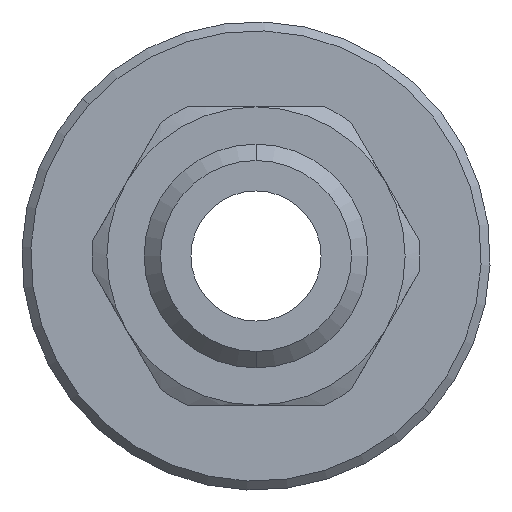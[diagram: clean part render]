
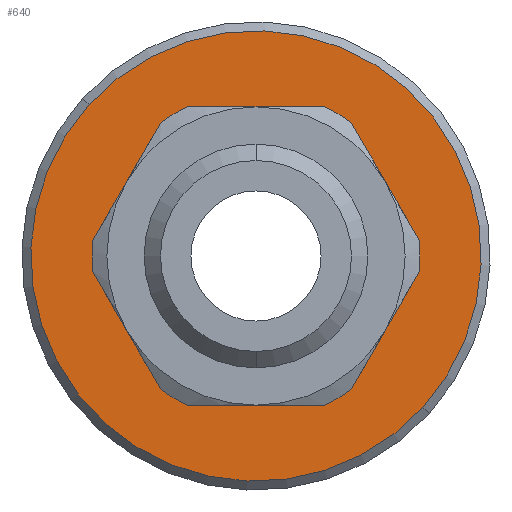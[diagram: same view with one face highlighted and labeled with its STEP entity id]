
A CAD part, left-side view. The second image highlights one B-rep face of the part: STEP entity #640.
In plain terms, the highlighted planar face has unit normal (-1, 0, 0).
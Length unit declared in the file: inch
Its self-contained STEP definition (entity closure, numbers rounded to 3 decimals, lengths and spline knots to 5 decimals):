
#41 = DIRECTION ( 'NONE',  ( 0., 0., -1. ) ) ;
#42 = DIRECTION ( 'NONE',  ( 1., 0., 0. ) ) ;
#43 = CARTESIAN_POINT ( 'NONE',  ( -0.3335, 0.14911, -0.05329 ) ) ;
#89 = CARTESIAN_POINT ( 'NONE',  ( -0.3335, 0.14911, -0.05329 ) ) ;
#95 = DIRECTION ( 'NONE',  ( 1., 0., 0. ) ) ;
#129 = DIRECTION ( 'NONE',  ( 0., 0., -1. ) ) ;
#192 = AXIS2_PLACEMENT_3D ( 'NONE', #1345, #1346, #1347 ) ;
#242 = CIRCLE ( 'NONE', #192, 0.3775 ) ;
#311 = CIRCLE ( 'NONE', #313, 0.3775 ) ;
#313 = AXIS2_PLACEMENT_3D ( 'NONE', #2069, #2070, #2071 ) ;
#344 = EDGE_CURVE ( 'NONE', #562, #462, #1753, .T. ) ;
#351 = EDGE_CURVE ( 'NONE', #462, #562, #1761, .T. ) ;
#387 = ORIENTED_EDGE ( 'NONE', *, *, #669, .T. ) ;
#390 = ORIENTED_EDGE ( 'NONE', *, *, #351, .T. ) ;
#392 = ORIENTED_EDGE ( 'NONE', *, *, #866, .T. ) ;
#404 = VERTEX_POINT ( 'NONE', #751 ) ;
#405 = VERTEX_POINT ( 'NONE', #780 ) ;
#446 = EDGE_LOOP ( 'NONE', ( #387, #392 ) ) ;
#462 = VERTEX_POINT ( 'NONE', #1696 ) ;
#541 = ORIENTED_EDGE ( 'NONE', *, *, #344, .T. ) ;
#562 = VERTEX_POINT ( 'NONE', #1816 ) ;
#640 = ADVANCED_FACE ( 'NONE', ( #1919, #1920 ), #1921, .F. ) ;
#669 = EDGE_CURVE ( 'NONE', #404, #405, #311, .T. ) ;
#751 = CARTESIAN_POINT ( 'NONE',  ( -0.3335, -0.13048, -0.30693 ) ) ;
#780 = CARTESIAN_POINT ( 'NONE',  ( -0.3335, 0.4287, 0.20036 ) ) ;
#819 = AXIS2_PLACEMENT_3D ( 'NONE', #1915, #1923, #1924 ) ;
#866 = EDGE_CURVE ( 'NONE', #405, #404, #242, .T. ) ;
#1097 = EDGE_LOOP ( 'NONE', ( #390, #541 ) ) ;
#1345 = CARTESIAN_POINT ( 'NONE',  ( -0.3335, 0.14911, -0.05329 ) ) ;
#1346 = DIRECTION ( 'NONE',  ( -1., 0., 0. ) ) ;
#1347 = DIRECTION ( 'NONE',  ( 0., -0.741, -0.672 ) ) ;
#1696 = CARTESIAN_POINT ( 'NONE',  ( -0.3335, 0.14911, 0.19421 ) ) ;
#1717 = AXIS2_PLACEMENT_3D ( 'NONE', #89, #95, #129 ) ;
#1727 = AXIS2_PLACEMENT_3D ( 'NONE', #43, #42, #41 ) ;
#1753 = CIRCLE ( 'NONE', #1717, 0.2475 ) ;
#1761 = CIRCLE ( 'NONE', #1727, 0.2475 ) ;
#1816 = CARTESIAN_POINT ( 'NONE',  ( -0.3335, 0.14911, -0.30079 ) ) ;
#1915 = CARTESIAN_POINT ( 'NONE',  ( -0.3335, 0.14911, -0.05329 ) ) ;
#1919 = FACE_OUTER_BOUND ( 'NONE', #446, .T. ) ;
#1920 = FACE_BOUND ( 'NONE', #1097, .T. ) ;
#1921 = PLANE ( 'NONE',  #819 ) ;
#1923 = DIRECTION ( 'NONE',  ( 1., 0., 0. ) ) ;
#1924 = DIRECTION ( 'NONE',  ( 0., -0.741, -0.672 ) ) ;
#2069 = CARTESIAN_POINT ( 'NONE',  ( -0.3335, 0.14911, -0.05329 ) ) ;
#2070 = DIRECTION ( 'NONE',  ( -1., 0., 0. ) ) ;
#2071 = DIRECTION ( 'NONE',  ( 0., -0.741, -0.672 ) ) ;
